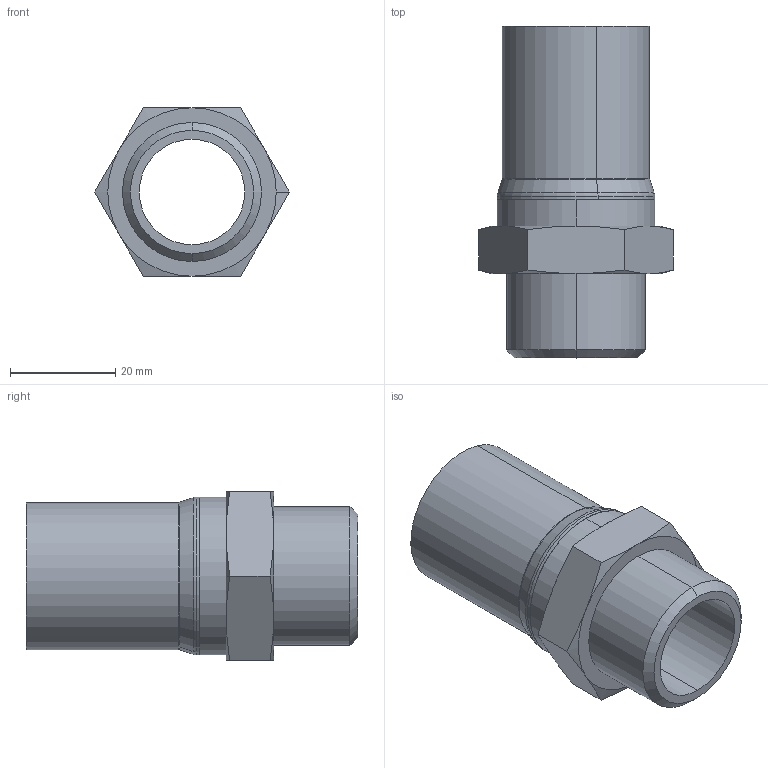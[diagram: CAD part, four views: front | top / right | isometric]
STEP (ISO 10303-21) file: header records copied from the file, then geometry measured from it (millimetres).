
FILE_DESCRIPTION (( 'STEP AP203' ), '1' );
FILE_NAME ('GDA6368.STEP', '2019-07-03T06:16:23', ( '' ), ( '' ), 'SwSTEP 2.0', 'SolidWorks 2015', '' );
FILE_SCHEMA (( 'CONFIG_CONTROL_DESIGN' ));
Length unit declared in the file: millimetre
Products named in the file (3): ETC-¢ñ-03-28¡Á?; GDA6368; 孺諳眻奪28-30
Assembly tree (2 placements, depth 2):
  GDA6368
    ETC-¢ñ-03-28¡Á?
    孺諳眻奪28-30
Bounding box: 36.95 x 63 x 32 mm (x, y, z)
Volume: 12034.7 mm3; surface area: 11481.1 mm2
Topology: 2 solids, 2 shells, 58 faces, 120 edges, 68 vertices
Faces by surface type: cone 22, cylinder 16, plane 12, torus 8
Entity records: 1905 total; most frequent: CARTESIAN_POINT 371, DIRECTION 286, ORIENTED_EDGE 240, AXIS2_PLACEMENT_3D 127, EDGE_CURVE 120, VERTEX_POINT 68, EDGE_LOOP 64, CIRCLE 64
